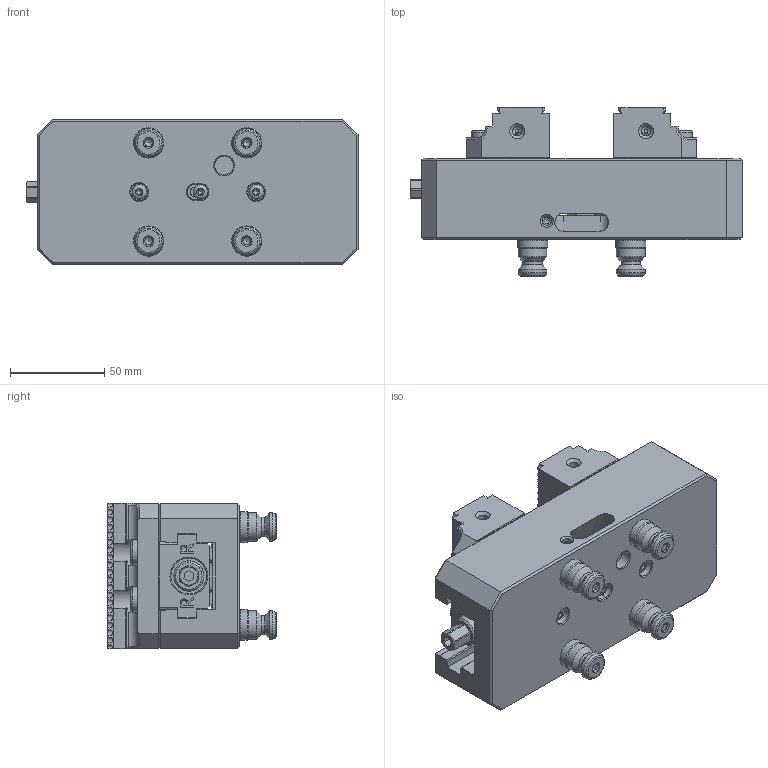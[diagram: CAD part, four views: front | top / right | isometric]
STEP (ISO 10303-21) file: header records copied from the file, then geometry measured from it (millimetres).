
FILE_DESCRIPTION (( 'STEP AP203' ), '1' );
FILE_NAME ('1azv317ga0101-無LOGO.STEP', '2026-03-25T12:47:33', ( '' ), ( '' ), 'SwSTEP 2.0', 'SolidWorks 2024', '' );
FILE_SCHEMA (( 'CONFIG_CONTROL_DESIGN' ));
Length unit declared in the file: millimetre
Products named in the file (42): 1AZV317GA010138; 1AZV317GA01011; 1AZV317GA010119; 1AZV317GA010126; 1AZV317GA010130; 1AZV317GA010124; 1AZV317GA010134; 1AZV317GA010116; 1AZV317GA01015; 1AZV317GA010139; 1AZV317GA01016; 1AZV317GA010125; 1AZV317GA010113; 1AZV317GA010122; 1AZV317GA01018; 1AZV317GA010136; 1AZV317GA01013; 1AZV317GA010123; 1AZV317GA01019; 1AZV317GA010114; 1AZV317GA01017; 1AZV317GA010118; 1AZV317GA010115; 1AZV317GA010133; 1AZV317GA010135; 1AZV317GA010111; 1AZV317GA010129; 1AZV317GA010127; 1AZV317GA010128; 1AZV317GA010140; 1AZV317GA010117; 1AZV317GA010121; 1AZV317GA010110; 1AZV317GA010120; 1azv317ga0101-無LOGO; 1AZV317GA010112; 1AZV317GA01014; 1AZV317GA010131; 1AZV317GA01012; 1AZV317GA010141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
Assembly tree (41 placements, depth 2):
  1azv317ga0101-無LOGO
    1AZV317GA01011
    1AZV317GA01012
    1AZV317GA01013
    1AZV317GA01014
    1AZV317GA01015
    1AZV317GA01016
    1AZV317GA01017
    1AZV317GA01018
    1AZV317GA01019
    1AZV317GA010110
    1AZV317GA010111
    1AZV317GA010112
    1AZV317GA010113
    1AZV317GA010114
    1AZV317GA010115
    1AZV317GA010116
    1AZV317GA010117
    1AZV317GA010118
    1AZV317GA010119
    1AZV317GA010120
    1AZV317GA010121
    1AZV317GA010122
    1AZV317GA010123
    1AZV317GA010124
    1AZV317GA010125
    1AZV317GA010126
    1AZV317GA010127
    1AZV317GA010128
    1AZV317GA010129
    1AZV317GA010130
    1AZV317GA010131
    1AZV317GA010132
    1AZV317GA010133
    1AZV317GA010134
    1AZV317GA010135
    1AZV317GA010136
    1AZV317GA010137
    1AZV317GA010138
    1AZV317GA010139
    1AZV317GA010140
    1AZV317GA010141
Bounding box: 176 x 89.36 x 77 mm (x, y, z)
Volume: 602161.5 mm3; surface area: 129744 mm2
Topology: 40 solids, 41 shells, 1912 faces, 5244 edges, 3476 vertices
Faces by surface type: plane 984, bspline 375, cylinder 301, cone 190, torus 38, sphere 24
Full cylindrical faces by diameter (mm): 2 x2, 2.5 x4, 3.242 x1, 4 x4, 4.134 x2, 4.4 x2, 4.917 x10, 5 x3, 6 x2, 6.1 x4, 6.5 x4, 6.647 x16, 7.6 x3, 8 x8, 8.5 x8, 9 x2, 10 x1, 10.2 x4, 11.991 x4, 12 x4, 13 x9, 14 x9, 15 x1, 15.202 x8, 15.997 x4, 16 x7, 19 x2, 28 x4, 29 x1
Entity records: 109565 total; most frequent: CARTESIAN_POINT 68347, ORIENTED_EDGE 9724, EDGE_CURVE 4864, B_SPLINE_CURVE_WITH_KNOTS 4707, VERTEX_POINT 3426, DIRECTION 3376, EDGE_LOOP 2428, FACE_OUTER_BOUND 2077
